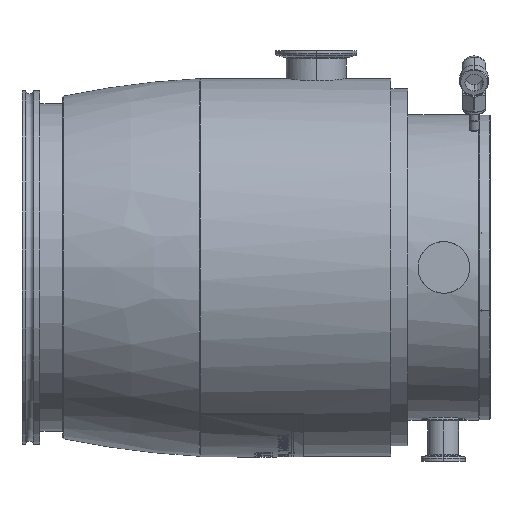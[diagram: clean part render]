
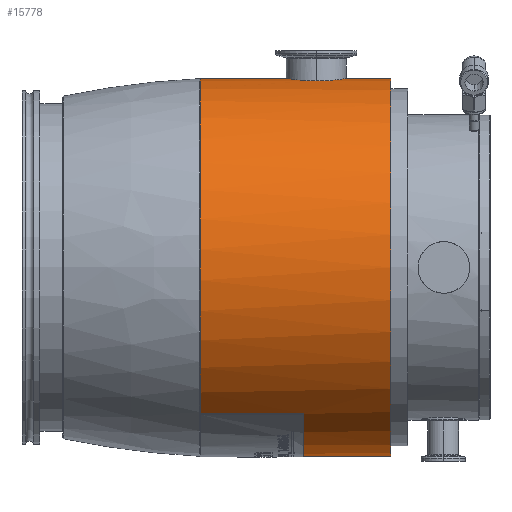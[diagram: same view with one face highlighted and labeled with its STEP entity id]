
A CAD part, left-side view. The second image highlights one B-rep face of the part: STEP entity #15778.
In plain terms, the highlighted cylindrical face has radius 128 mm (diameter 256 mm), a partial arc.
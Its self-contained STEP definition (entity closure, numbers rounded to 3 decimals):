
#3615=CARTESIAN_POINT('',(0.,118.85,0.));
#3616=DIRECTION('',(0.,-1.,0.));
#3617=DIRECTION('',(-0.631,0.,-0.776));
#3618=AXIS2_PLACEMENT_3D('',#3615,#3616,#3617);
#3620=DIRECTION('',(0.,-1.,0.));
#3621=VECTOR('',#3620,70.);
#3622=CARTESIAN_POINT('',(-80.751,188.85,-99.314));
#3623=LINE('',#3622,#3621);
#3624=DIRECTION('',(0.,1.,0.));
#3625=VECTOR('',#3624,58.4);
#3626=CARTESIAN_POINT('',(0.,130.45,128.));
#3627=LINE('',#3626,#3625);
#3628=CARTESIAN_POINT('',(0.,130.45,128.));
#3629=CARTESIAN_POINT('',(-1.281,130.45,128.));
#3630=CARTESIAN_POINT('',(-3.833,130.222,127.963));
#3631=CARTESIAN_POINT('',(-7.848,129.028,127.779));
#3632=CARTESIAN_POINT('',(-11.389,127.12,127.507));
#3633=CARTESIAN_POINT('',(-14.481,124.582,127.189));
#3634=CARTESIAN_POINT('',(-17.018,121.495,126.87));
#3635=CARTESIAN_POINT('',(-18.921,117.946,126.597));
#3636=CARTESIAN_POINT('',(-20.09,114.078,126.414));
#3637=CARTESIAN_POINT('',(-20.35,111.444,126.372));
#3638=CARTESIAN_POINT('',(-20.35,110.1,126.372));
#3640=CARTESIAN_POINT('',(-20.35,110.1,126.372));
#3641=CARTESIAN_POINT('',(-20.35,108.757,126.372));
#3642=CARTESIAN_POINT('',(-20.09,106.123,126.414));
#3643=CARTESIAN_POINT('',(-18.921,102.254,126.597));
#3644=CARTESIAN_POINT('',(-17.019,98.707,126.87));
#3645=CARTESIAN_POINT('',(-14.481,95.618,127.189));
#3646=CARTESIAN_POINT('',(-11.399,93.088,127.506));
#3647=CARTESIAN_POINT('',(-7.867,91.18,127.777));
#3648=CARTESIAN_POINT('',(-3.842,89.979,127.963));
#3649=CARTESIAN_POINT('',(-1.285,89.75,128.));
#3650=CARTESIAN_POINT('',(0.,89.75,128.));
#3652=DIRECTION('',(0.,1.,0.));
#3653=VECTOR('',#3652,30.25);
#3654=CARTESIAN_POINT('',(0.,59.5,128.));
#3655=LINE('',#3654,#3653);
#3656=CARTESIAN_POINT('',(0.,59.5,0.));
#3657=DIRECTION('',(0.,1.,0.));
#3658=DIRECTION('',(0.,0.,-1.));
#3659=AXIS2_PLACEMENT_3D('',#3656,#3657,#3658);
#3661=DIRECTION('',(0.,1.,0.));
#3662=VECTOR('',#3661,59.35);
#3663=CARTESIAN_POINT('',(0.,59.5,-128.));
#3664=LINE('',#3663,#3662);
#3683=CARTESIAN_POINT('',(0.,89.75,128.));
#3705=CARTESIAN_POINT('',(0.,130.45,128.));
#3814=CARTESIAN_POINT('',(0.,188.85,0.));
#3815=DIRECTION('',(0.,1.,0.));
#3816=DIRECTION('',(-0.631,0.,-0.776));
#3817=AXIS2_PLACEMENT_3D('',#3814,#3815,#3816);
#9401=CARTESIAN_POINT('',(0.,188.85,128.));
#9403=VERTEX_POINT('',#9401);
#9431=CARTESIAN_POINT('',(0.,59.5,-128.));
#9432=CARTESIAN_POINT('',(0.,59.5,128.));
#9433=VERTEX_POINT('',#9431);
#9434=VERTEX_POINT('',#9432);
#9467=VERTEX_POINT('',#3683);
#9469=VERTEX_POINT('',#3705);
#9470=VERTEX_POINT('',#3640);
#10089=CARTESIAN_POINT('',(0.,118.85,-128.));
#10091=VERTEX_POINT('',#10089);
#10097=CARTESIAN_POINT('',(-80.751,118.85,-99.314));
#10098=VERTEX_POINT('',#10097);
#10099=CARTESIAN_POINT('',(-80.751,188.85,-99.314));
#10100=VERTEX_POINT('',#10099);
#15754=CARTESIAN_POINT('',(0.,325.381,0.));
#15755=DIRECTION('',(0.,-1.,0.));
#15756=DIRECTION('',(0.,0.,1.));
#15757=AXIS2_PLACEMENT_3D('',#15754,#15755,#15756);
#15758=CYLINDRICAL_SURFACE('',#15757,128.);
#15760=ORIENTED_EDGE('',*,*,#15759,.F.);
#15762=ORIENTED_EDGE('',*,*,#15761,.F.);
#15764=ORIENTED_EDGE('',*,*,#15763,.T.);
#15766=ORIENTED_EDGE('',*,*,#15765,.F.);
#15768=ORIENTED_EDGE('',*,*,#15767,.T.);
#15770=ORIENTED_EDGE('',*,*,#15769,.T.);
#15772=ORIENTED_EDGE('',*,*,#15771,.F.);
#15773=ORIENTED_EDGE('',*,*,#15659,.F.);
#15775=ORIENTED_EDGE('',*,*,#15774,.T.);
#15776=EDGE_LOOP('',(#15760,#15762,#15764,#15766,#15768,#15770,#15772,#15773,
#15775));
#15777=FACE_OUTER_BOUND('',#15776,.F.);
#15778=ADVANCED_FACE('',(#15777),#15758,.T.);
#3619=CIRCLE('',#3618,128.);
#3639=B_SPLINE_CURVE_WITH_KNOTS('',3,(#3628,#3629,#3630,#3631,#3632,#3633,#3634,
#3635,#3636,#3637,#3638),.UNSPECIFIED.,.F.,.F.,(4,1,1,1,1,1,1,1,4),(0.,
0.125,0.25,0.375,0.5,0.625,0.75,0.875,1.),.UNSPECIFIED.);
#3651=B_SPLINE_CURVE_WITH_KNOTS('',3,(#3640,#3641,#3642,#3643,#3644,#3645,#3646,
#3647,#3648,#3649,#3650),.UNSPECIFIED.,.F.,.F.,(4,1,1,1,1,1,1,1,4),(0.,
0.125,0.25,0.375,0.5,0.625,0.75,0.875,1.),.UNSPECIFIED.);
#3660=CIRCLE('',#3659,128.);
#3818=CIRCLE('',#3817,128.);
#15659=EDGE_CURVE('',#9433,#9434,#3660,.T.);
#15759=EDGE_CURVE('',#10098,#10091,#3619,.T.);
#15761=EDGE_CURVE('',#10100,#10098,#3623,.T.);
#15763=EDGE_CURVE('',#10100,#9403,#3818,.T.);
#15765=EDGE_CURVE('',#9469,#9403,#3627,.T.);
#15767=EDGE_CURVE('',#9469,#9470,#3639,.T.);
#15769=EDGE_CURVE('',#9470,#9467,#3651,.T.);
#15771=EDGE_CURVE('',#9434,#9467,#3655,.T.);
#15774=EDGE_CURVE('',#9433,#10091,#3664,.T.);
